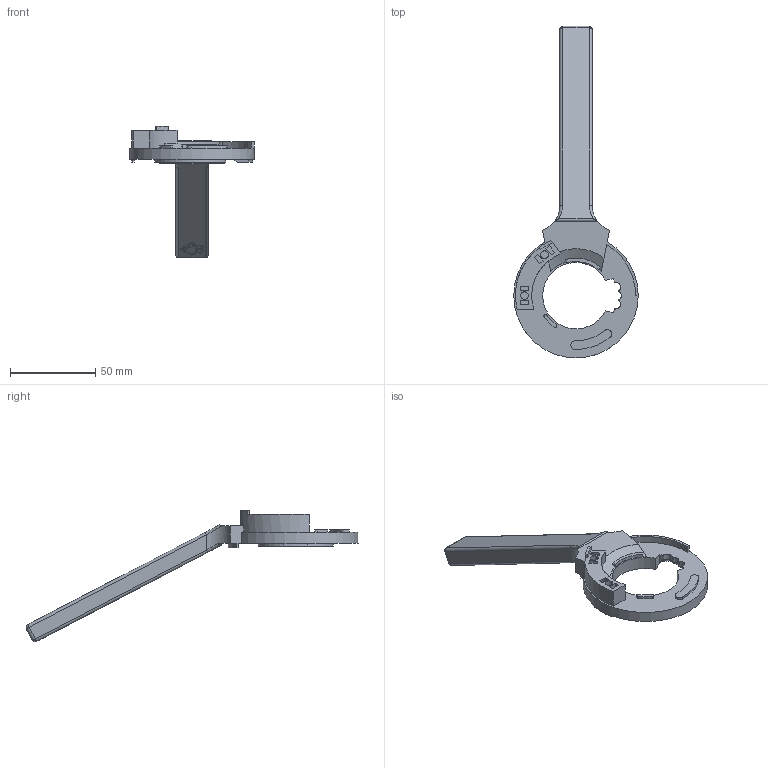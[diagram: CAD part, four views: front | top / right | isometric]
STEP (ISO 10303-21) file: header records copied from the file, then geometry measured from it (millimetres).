
FILE_DESCRIPTION(/* description */ ('STEP AP242','CAx-IF Rec.Pracs.---Representation and Presentation of Product Manufacturing Information (PMI)---4.0---2014-10-13','CAx-IF Rec.Pracs.---3D Tessellated Geometry---0.4---2014-09-14','2;1'),/* implementation_level */ '2;1');
FILE_NAME(/* name */ '67335c60239e464357885aed',/* time_stamp */ '2024-11-12T13:47:14Z',/* author */ (''),/* organization */ (''),/* preprocessor_version */ 'ST-DEVELOPER v20',/* originating_system */ 'ONSHAPE BY PTC INC, 1.189',/* authorisation */ ' ');
FILE_SCHEMA (('AP242_MANAGED_MODEL_BASED_3D_ENGINEERING_MIM_LF { 1 0 10303 442 1 1 4 }'));
Length unit declared in the file: metre
Products named in the file (7): Part 1; Part 3; Part 4; Part 5; Part 6; Part 7; Part 8
Bounding box: 73 x 194.63 x 77.14 mm (x, y, z)
Volume: 51937.3 mm3; surface area: 20469.4 mm2
Topology: 7 solids, 7 shells, 834 faces, 2380 edges, 1570 vertices
Faces by surface type: plane 748, cylinder 51, bspline 22, torus 7, cone 6
Full cylindrical faces by diameter (mm): 4.5 x2
Entity records: 27129 total; most frequent: CARTESIAN_POINT 5330, ORIENTED_EDGE 4744, DIRECTION 4078, EDGE_CURVE 2372, LINE 2178, VECTOR 2178, VERTEX_POINT 1570, AXIS2_PLACEMENT_3D 950
